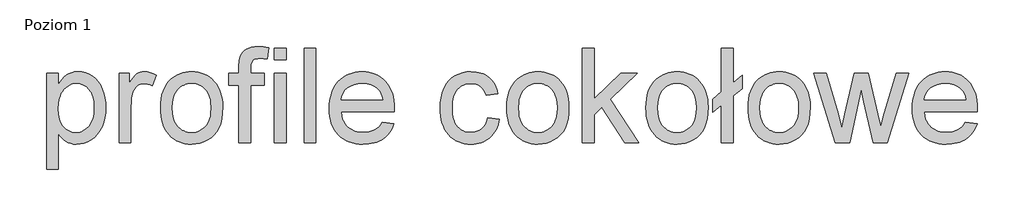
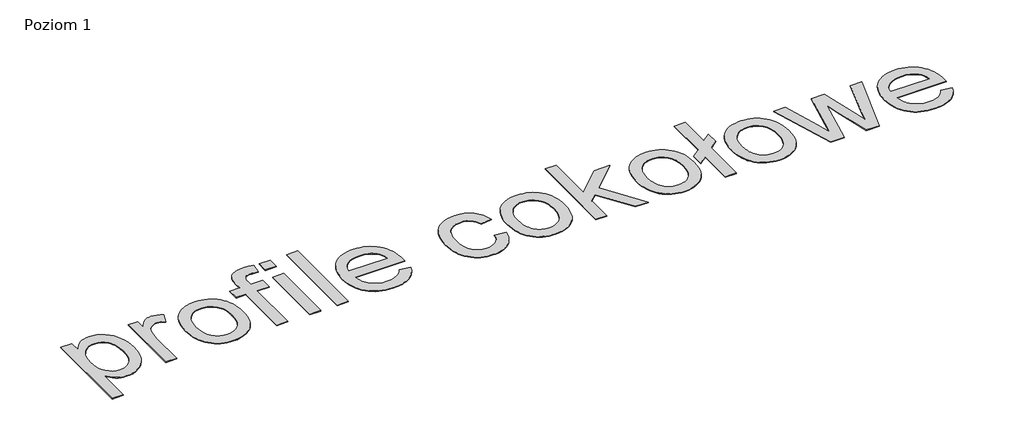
# One storey, part 3 of 4: 1 proxy.
"""IFC4 building model written with IfcOpenShell, lengths in millimetres."""

from ifc_helpers import new_model, si_unit, origin, origin_with_axes, place, context, project, spatial, polyline, outline, extrude, element, save

model = new_model("IFC4")

# Units and contexts
model_context = context("Model", 3, world=origin())
ifc_project = project(units=[si_unit("LENGTHUNIT", "METRE", prefix="MILLI")], contexts=[model_context])

# Site, building, storey
site = spatial("IfcSite", under=ifc_project)
building = spatial("IfcBuilding", under=site)
storey = spatial("IfcBuildingStorey", under=building, Name="Poziom 1", Elevation=0.0)

# Proxy
placement = place(None, origin())
element("IfcBuildingElementProxy", 1, Name="1500 mm Arial", ObjectType="1500 mm Arial", at=placement, inside=storey, context=model_context, shape_type="SweptSolid", body=[
    extrude(outline(polyline([(-110537.381366, 63841.8977144), (-110537.381366, 65372.2868143), (-110349.0257845, 65372.2868143), (-110349.0257845, 65187.6100528), (-110319.2273429, 65236.4118987), (-110287.5894913, 65278.7068318), (-110254.1122297, 65314.4948522), (-110218.7955582, 65343.7759597), (-110180.6278012, 65366.5501545), (-110138.5972832, 65382.8174365), (-110092.7040043, 65392.5778056), (-110042.9479645, 65395.831262), (-109977.2580357, 65391.2787223), (-109915.5688237, 65377.6211033), (-109857.8803283, 65354.8584048), (-109804.1925496, 65322.990627), (-109755.6781115, 65282.8455043), (-109713.5096378, 65235.2507711), (-109677.6871285, 65180.2064276), (-109648.2105837, 65117.7124737), (-109625.1949663, 65049.9072234), (-109608.7552397, 64978.928991), (-109598.8914037, 64904.7777763), (-109595.6034584, 64827.4535795), (-109599.3167672, 64744.7835974), (-109610.4566939, 64666.3672508), (-109629.0232384, 64592.2045399), (-109655.0164006, 64522.2954645), (-109688.0797949, 64458.4679383), (-109727.8570356, 64402.5498751), (-109774.3481228, 64354.5412747), (-109827.5530563, 64314.4421372), (-109884.8621734, 64282.8157819), (-109943.665811, 64260.2255282), (-110003.9639693, 64246.6713759), (-110065.7566482, 64242.1533252), (-110110.212888, 64245.1768553), (-110152.3468728, 64254.2474457), (-110192.1586025, 64269.3650965), (-110229.648077, 64290.5298075), (-110264.355444, 64316.3160361), (-110295.8208509, 64345.2982396), (-110324.0442977, 64377.4764178), (-110349.0257845, 64412.8505709), (-110349.0257845, 63841.8977144), (-110537.381366, 63841.8977144)]), holes=[polyline([(-110349.0257845, 64810.1631257), (-110343.9329181, 64719.3882434), (-110328.654319, 64641.3052899), (-110317.1953697, 64607.0232865), (-110303.1899871, 64575.9142653), (-110286.6381714, 64547.9782263), (-110267.5399225, 64523.2151695), (-110224.6241885, 64482.6561795), (-110177.3628485, 64453.6854724), (-110125.7559023, 64436.3030481), (-110069.8033501, 64430.5089067), (-110013.0460561, 64436.5099817), (-109986.2452779, 64444.0113255), (-109960.4964123, 64454.5132069), (-109912.1544189, 64484.5185821), (-109868.0200758, 64526.5261074), (-109848.3182705, 64552.1801284), (-109831.2433726, 64581.1335911), (-109816.795382, 64613.3864954), (-109804.9742989, 64648.9388413), (-109795.7801231, 64687.7906289), (-109789.2128546, 64729.9418581), (-109783.9590399, 64824.1426415), (-109789.0863952, 64914.1357746), (-109804.4684611, 64992.0807723), (-109816.0050106, 65026.5352204), (-109830.1052377, 65057.9776347), (-109846.7691424, 65086.4080151), (-109865.9967248, 65111.8263618), (-109909.0159256, 65153.6729387), (-109956.0358431, 65183.5633508), (-110007.0564773, 65201.4975981), (-110062.0778282, 65207.4756805), (-110089.9075264, 65205.8863153), (-110116.9267345, 65201.1182198), (-110143.1354525, 65193.1713939), (-110168.5336806, 65182.0458376), (-110216.8986666, 65150.2585339), (-110262.0216926, 65105.7563088), (-110282.4132766, 65078.8865528), (-110300.0859828, 65049.1369705), (-110315.0398111, 65016.507562), (-110327.2747615, 64980.9983272), (-110336.7908341, 64942.6092662), (-110343.5880287, 64901.340379), (-110349.0257845, 64810.1631257)])]), origin_with_axes(), (0.0, 0.0, 1.0), 10.0),
    extrude(outline(polyline([(-109383.7034291, 64265.6977728), (-109383.7034291, 65372.2868143), (-109218.8922953, 65372.2868143), (-109218.8922953, 65208.5793265), (-109187.852252, 65260.9105403), (-109158.0078251, 65303.4928812), (-109129.3590147, 65336.3263493), (-109101.9058208, 65359.4109445), (-109074.4066417, 65375.3448334), (-109045.6198756, 65386.7261826), (-109015.5455225, 65393.5549922), (-108984.1835824, 65395.831262), (-108937.462569, 65392.1984273), (-108890.3736736, 65381.2999232), (-108842.9168962, 65363.1357497), (-108795.0922369, 65337.7059068), (-108858.000058, 65168.848071), (-108891.1094376, 65185.7476502), (-108924.2188172, 65197.8187781), (-108957.3281967, 65205.0614549), (-108990.4375763, 65207.4756805), (-109019.3048166, 65205.1534254), (-109046.6775363, 65198.1866601), (-109072.5557354, 65186.5753846), (-109096.9394139, 65170.319599), (-109118.9088668, 65149.9481335), (-109137.5443891, 65125.9898186), (-109152.8459808, 65098.4446542), (-109164.813642, 65067.3126403), (-109178.172357, 65015.9011315), (-109187.7142962, 64962.0983897), (-109193.4394598, 64905.904415), (-109195.3478476, 64847.3192072), (-109195.3478476, 64265.6977728), (-109383.7034291, 64265.6977728)])), origin_with_axes(), (0.0, 0.0, 1.0), 10.0),
    extrude(outline(polyline([(-108724.4588938, 64818.9922936), (-108721.9124606, 64893.1262638), (-108714.273161, 64962.3053233), (-108701.5409951, 65026.5294723), (-108683.7159628, 65085.7987106), (-108660.7980641, 65140.1130383), (-108632.7872991, 65189.4724554), (-108599.6836677, 65233.8769618), (-108561.4871699, 65273.3265576), (-108526.5268841, 65302.0385977), (-108489.7041956, 65326.9223658), (-108451.0191046, 65347.9778619), (-108410.4716109, 65365.2050859), (-108368.0617146, 65378.604038), (-108323.7894158, 65388.174718), (-108277.6547143, 65393.917126), (-108229.6576103, 65395.831262), (-108176.4555508, 65393.5003847), (-108125.7424429, 65386.5077527), (-108077.5182867, 65374.8533661), (-108031.7830821, 65358.5372248), (-107988.5368291, 65337.5593288), (-107947.7795278, 65311.9196782), (-107909.511178, 65281.6182729), (-107873.7317799, 65246.655113), (-107841.3552903, 65207.5820214), (-107813.2956659, 65164.9508211), (-107789.5529068, 65118.7615122), (-107770.127013, 65069.0140946), (-107755.0179845, 65015.7085683), (-107744.2258213, 64958.8449333), (-107737.7505234, 64898.4231897), (-107735.5920907, 64834.4433374), (-107739.4088664, 64733.6206781), (-107750.8591935, 64644.1563754), (-107769.943072, 64566.0504293), (-107796.6605019, 64499.3028398), (-107830.6780902, 64441.6488334), (-107871.6624437, 64390.8236365), (-107919.6135625, 64346.8272491), (-107974.5314466, 64309.6596713), (-108034.2777819, 64280.1256448), (-108096.7142543, 64259.0299117), (-108161.8408637, 64246.3724718), (-108229.6576103, 64242.1533252), (-108283.6989005, 64244.4755802), (-108335.0902908, 64251.4423455), (-108383.8317811, 64263.053621), (-108429.9233714, 64279.3094067), (-108473.3650617, 64300.2097025), (-108514.156852, 64325.7545086), (-108552.2987423, 64355.9438248), (-108587.7907326, 64390.7776512), (-108619.8223329, 64429.9800763), (-108647.5830531, 64473.2751886), (-108671.0728933, 64520.6629881), (-108690.2918535, 64572.1434748), (-108705.2399336, 64627.7166487), (-108715.9171337, 64687.3825098), (-108722.3234538, 64751.1410581), (-108724.4588938, 64818.9922936)]), holes=[polyline([(-108536.1033122, 64819.3601756), (-108530.6540602, 64727.9989813), (-108523.8424951, 64686.9140351), (-108514.306304, 64648.8928561), (-108502.0454869, 64613.9354443), (-108487.0600438, 64582.0417998), (-108469.3499746, 64553.2119225), (-108448.9152794, 64527.4458124), (-108426.4169961, 64504.7262251), (-108402.5161627, 64485.0359162), (-108377.2127793, 64468.3748855), (-108350.5068457, 64454.7431331), (-108322.398362, 64444.1406591), (-108292.8873282, 64436.5674633), (-108229.6576103, 64430.5089067), (-108166.7497891, 64436.6019522), (-108137.3652147, 64444.2182592), (-108109.3601978, 64454.8810889), (-108082.7347384, 64468.5904413), (-108057.4888365, 64485.3463166), (-108033.6224921, 64505.1487146), (-108011.1357051, 64527.9976354), (-107990.7010099, 64553.967805), (-107972.9909408, 64583.1339494), (-107958.0054976, 64615.4960687), (-107945.7446805, 64651.0541628), (-107936.2084894, 64689.8082317), (-107929.3969243, 64731.7582755), (-107923.9476723, 64825.2462875), (-107929.4314133, 64913.710411), (-107936.2860895, 64953.6572224), (-107945.8826362, 64990.7472001), (-107958.2210535, 65024.9803442), (-107973.3013412, 65056.3566547), (-107991.1234994, 65084.8761315), (-108011.6875281, 65110.5387748), (-108058.2131042, 65152.948671), (-108083.4676284, 65169.6097017), (-108110.0499766, 65183.2414541), (-108137.9601489, 65193.8439281), (-108167.1981453, 65201.4171239), (-108229.6576103, 65207.4756805), (-108292.8873282, 65201.4401165), (-108322.398362, 65193.8956615), (-108350.5068457, 65183.3334246), (-108377.2127793, 65169.7534056), (-108402.5161627, 65153.1556046), (-108426.4169961, 65133.5400217), (-108448.9152794, 65110.9066568), (-108469.3499746, 65085.2267691), (-108487.0600438, 65056.4716178), (-108502.0454869, 65024.641203), (-108514.306304, 64989.7355246), (-108523.8424951, 64951.7545827), (-108530.6540602, 64910.6983772), (-108536.1033122, 64819.3601756)])]), origin_with_axes(), (0.0, 0.0, 1.0), 10.0),
    extrude(outline(polyline([(-107476.6031661, 64265.6977728), (-107476.6031661, 65183.9312328), (-107641.4143, 65183.9312328), (-107641.4143, 65372.2868143), (-107476.6031661, 65372.2868143), (-107476.6031661, 65483.7550589), (-107471.6367592, 65576.0014692), (-107465.4287505, 65611.8469711), (-107456.7375384, 65640.8406708), (-107440.3667896, 65673.789102), (-107418.8456929, 65703.4725805), (-107392.1742482, 65729.8911063), (-107360.3524557, 65753.0446793), (-107322.6905364, 65771.875639), (-107278.4987117, 65785.3263244), (-107227.7769817, 65793.3967357), (-107170.5253462, 65796.0868728), (-107088.7635727, 65790.9365248), (-106998.7244544, 65775.4854811), (-107026.315604, 65598.9021234), (-107082.1416968, 65605.5239993), (-107134.8407926, 65607.7312913), (-107173.7098247, 65605.7769182), (-107206.4398259, 65599.9137989), (-107233.0307964, 65590.1419334), (-107253.4827361, 65576.4613217), (-107268.6923573, 65557.446421), (-107279.5563725, 65531.6716887), (-107286.0747816, 65499.1371248), (-107288.2475846, 65459.8427292), (-107288.2475846, 65372.2868143), (-107076.3475554, 65372.2868143), (-107076.3475554, 65183.9312328), (-107288.2475846, 65183.9312328), (-107288.2475846, 64265.6977728), (-107476.6031661, 64265.6977728)])), origin_with_axes(), (0.0, 0.0, 1.0), 10.0),
    extrude(outline(polyline([(-106911.5364215, 65584.1868436), (-106911.5364215, 65772.5424251), (-106723.18084, 65772.5424251), (-106723.18084, 65584.1868436), (-106911.5364215, 65584.1868436)])), origin_with_axes(), (0.0, 0.0, 1.0), 10.0),
    extrude(outline(polyline([(-106911.5364215, 64265.6977728), (-106911.5364215, 65372.2868143), (-106723.18084, 65372.2868143), (-106723.18084, 64265.6977728), (-106911.5364215, 64265.6977728)])), origin_with_axes(), (0.0, 0.0, 1.0), 10.0),
    extrude(outline(polyline([(-106440.6474677, 64265.6977728), (-106440.6474677, 65772.5424251), (-106252.2918862, 65772.5424251), (-106252.2918862, 64265.6977728), (-106440.6474677, 64265.6977728)])), origin_with_axes(), (0.0, 0.0, 1.0), 10.0),
    extrude(outline(polyline([(-105194.9990321, 64595.3200405), (-105010.3222705, 64571.7755928), (-105038.6376878, 64497.8083192), (-105056.5115794, 64464.1183758), (-105076.8629264, 64432.6242282), (-105099.6917286, 64403.3258761), (-105124.9979862, 64376.2233198), (-105152.781699, 64351.3165591), (-105183.0428672, 64328.605594), (-105215.6320386, 64308.3433435), (-105250.3997613, 64290.7827264), (-105287.3460351, 64275.9237427), (-105326.4708601, 64263.7663924), (-105411.2561637, 64247.556592), (-105504.755672, 64242.1533252), (-105564.7836669, 64244.4842025), (-105621.6271833, 64251.4768345), (-105675.2862212, 64263.1312211), (-105725.7607806, 64279.4473624), (-105773.0508614, 64300.4252584), (-105817.1564638, 64326.064909), (-105858.0775876, 64356.3663143), (-105895.8142329, 64391.3294742), (-105929.6996135, 64430.5002845), (-105959.0669434, 64473.4246407), (-105983.9162226, 64520.1025429), (-106004.2474509, 64570.5339911), (-106020.0606286, 64624.7189853), (-106031.3557555, 64682.6575254), (-106038.1328316, 64744.3496116), (-106040.391857, 64809.7952437), (-106038.109839, 64877.4682864), (-106031.263785, 64941.2440791), (-106019.853695, 65001.122622), (-106003.8795689, 65057.103915), (-105983.3414069, 65109.1879581), (-105958.2392089, 65157.3747513), (-105928.5729749, 65201.6642946), (-105894.3427049, 65242.056588), (-105856.473852, 65278.0975273), (-105815.8918694, 65309.3330079), (-105772.5967571, 65335.76303), (-105726.5885151, 65357.3875935), (-105677.8671433, 65374.2066985), (-105626.4326419, 65386.2203449), (-105572.2850107, 65393.4285327), (-105515.4242499, 65395.831262), (-105460.4230175, 65393.4342809), (-105407.9912109, 65386.2433375), (-105358.1288302, 65374.2584319), (-105310.8358753, 65357.479564), (-105266.1123462, 65335.9067339), (-105223.9582429, 65309.5399415), (-105184.3735654, 65278.3791869), (-105147.3583137, 65242.42447), (-105113.8609336, 65202.1241471), (-105084.8298708, 65157.9265743), (-105060.2651254, 65109.8317516), (-105040.1666973, 65057.839679), (-105024.5345866, 65001.9503565), (-105013.3687932, 64942.1637841), (-105006.6693172, 64878.4799618), (-105004.4361586, 64810.8988897), (-105005.5398045, 64760.1311744), (-105852.0362754, 64760.1311744), (-105841.126275, 64684.9682842), (-105831.6274469, 64650.8874663), (-105819.4327336, 64619.1403997), (-105804.542135, 64589.7270846), (-105786.9556512, 64562.6475208), (-105766.6732822, 64537.9017085), (-105743.6950279, 64515.4896476), (-105692.0420965, 64478.3105734), (-105634.38809, 64451.7540919), (-105570.7330086, 64435.820203), (-105501.076852, 64430.5089067), (-105448.9755645, 64432.9691175), (-105400.8290084, 64440.3497501), (-105356.6371837, 64452.6508043), (-105316.4000905, 64469.8722802), (-105280.1177287, 64492.4740302), (-105247.7900984, 64520.915907), (-105219.4171995, 64555.1979104), (-105194.9990321, 64595.3200405)]), holes=[polyline([(-105852.0362754, 64948.4867559), (-105192.7917401, 64948.4867559), (-105202.4716351, 65001.7836599), (-105218.2675682, 65047.9988356), (-105240.1795396, 65087.1322828), (-105268.2075491, 65119.1840017), (-105293.0050948, 65139.8773639), (-105319.5730727, 65157.8116112), (-105347.9114826, 65172.9867435), (-105378.0203247, 65185.4027608), (-105443.549305, 65201.9574506), (-105516.1600138, 65207.4756805), (-105582.3902693, 65203.0725929), (-105643.1252874, 65189.86333), (-105698.3650683, 65167.8478918), (-105748.1096118, 65137.0262784), (-105789.8527219, 65098.8240325), (-105821.0882026, 65054.6666968), (-105841.8160538, 65004.5542712), (-105852.0362754, 64948.4867559)])]), origin_with_axes(), (0.0, 0.0, 1.0), 10.0),
    extrude(outline(polyline([(-103521.135954, 64665.9533836), (-103332.7803725, 64642.4089359), (-103341.5807996, 64596.6909758), (-103353.2668011, 64553.5309451), (-103367.838377, 64512.928844), (-103385.2955273, 64474.8846724), (-103405.638252, 64439.3984302), (-103428.8665511, 64406.4701176), (-103454.9804246, 64376.0997344), (-103483.9798725, 64348.2872808), (-103515.284331, 64323.4121349), (-103548.3132364, 64301.8536752), (-103583.0665886, 64283.6119016), (-103619.5443877, 64268.6868141), (-103657.7466336, 64257.0784127), (-103697.6733264, 64248.7866974), (-103739.3244661, 64243.8116682), (-103782.7000526, 64242.1533252), (-103836.8850467, 64244.466958), (-103888.3396667, 64251.4078566), (-103937.0639126, 64262.9760209), (-103983.0577842, 64279.1714509), (-104026.3212816, 64299.9941467), (-104066.8544049, 64325.4441081), (-104104.657154, 64355.5213353), (-104139.7295289, 64390.2258282), (-104171.3300175, 64429.2529346), (-104198.7171076, 64472.2980021), (-104221.8907992, 64519.3610308), (-104240.8510923, 64570.4420206), (-104255.597987, 64625.5409716), (-104266.1314832, 64684.6578838), (-104272.4515809, 64747.7927571), (-104274.5582801, 64814.9455916), (-104270.9599344, 64901.5473126), (-104260.1648971, 64982.5618257), (-104242.1731682, 65057.989131), (-104216.9847479, 65127.8292285), (-104184.4271913, 65190.6795682), (-104144.3280538, 65245.1375998), (-104096.6873355, 65291.2033233), (-104041.5050362, 65328.8767389), (-103981.2758558, 65358.1693428), (-103918.494494, 65379.0926312), (-103853.160951, 65391.6466043), (-103785.2752265, 65395.831262), (-103701.7085321, 65390.0831059), (-103662.9171001, 65382.8979106), (-103626.1202784, 65372.8386373), (-103591.3180668, 65359.9052859), (-103558.5104654, 65344.0978565), (-103527.6974743, 65325.4163489), (-103498.8790933, 65303.8607632), (-103472.3082414, 65279.6610257), (-103448.2378374, 65253.0470627), (-103426.6678813, 65224.018874), (-103407.5983732, 65192.5764597), (-103391.0293131, 65158.7198198), (-103376.9607008, 65122.4489544), (-103356.3248202, 65042.6645467), (-103544.6804017, 65019.120099), (-103559.3841852, 65063.1164863), (-103578.847442, 65101.2957396), (-103603.0701721, 65133.6578589), (-103632.0523755, 65160.2028441), (-103665.0582883, 65180.88471), (-103701.3521464, 65195.6574714), (-103740.9339498, 65204.5211282), (-103783.8036986, 65207.4756805), (-103847.8036694, 65201.6585465), (-103877.4497849, 65194.3871289), (-103905.5266537, 65184.2071443), (-103932.0342759, 65171.1185927), (-103956.9726515, 65155.1214741), (-103980.3417804, 65136.2157884), (-104002.1416627, 65114.4015357), (-104021.843468, 65089.4430416), (-104038.9183659, 65061.1046317), (-104053.3663564, 65029.3863059), (-104065.1874396, 64994.2880643), (-104074.3816154, 64955.8099069), (-104080.9488838, 64913.9518336), (-104086.2026986, 64820.0959396), (-104081.063847, 64724.8259991), (-104074.6402824, 64682.4419696), (-104065.6472921, 64643.5585671), (-104054.084876, 64608.1757918), (-104039.953034, 64576.2936436), (-104023.2517662, 64547.9121225), (-104003.9810727, 64523.0312285), (-103982.6352947, 64501.3463093), (-103959.7087738, 64482.5527127), (-103935.20151, 64466.6504386), (-103909.1135032, 64453.6394871), (-103881.4447534, 64443.5198582), (-103852.1952607, 64436.2915518), (-103788.9540465, 64430.5089067), (-103737.9908938, 64434.1187488), (-103691.4193325, 64444.948275), (-103649.2393625, 64462.9974854), (-103611.4509838, 64488.2663799), (-103579.1118572, 64521.0308701), (-103553.2796433, 64561.5668675), (-103533.9543423, 64609.874372), (-103521.135954, 64665.9533836)])), origin_with_axes(), (0.0, 0.0, 1.0), 10.0),
    extrude(outline(polyline([(-103215.058134, 64818.9922936), (-103212.5117008, 64893.1262638), (-103204.8724013, 64962.3053233), (-103192.1402353, 65026.5294723), (-103174.315203, 65085.7987106), (-103151.3973044, 65140.1130383), (-103123.3865393, 65189.4724554), (-103090.2829079, 65233.8769618), (-103052.0864101, 65273.3265576), (-103017.1261243, 65302.0385977), (-102980.3034358, 65326.9223658), (-102941.6183448, 65347.9778619), (-102901.0708511, 65365.2050859), (-102858.6609549, 65378.604038), (-102814.388656, 65388.174718), (-102768.2539546, 65393.917126), (-102720.2568505, 65395.831262), (-102667.054791, 65393.5003847), (-102616.3416832, 65386.5077527), (-102568.1175269, 65374.8533661), (-102522.3823223, 65358.5372248), (-102479.1360694, 65337.5593288), (-102438.378768, 65311.9196782), (-102400.1104183, 65281.6182729), (-102364.3310202, 65246.655113), (-102331.9545305, 65207.5820214), (-102303.8949061, 65164.9508211), (-102280.1521471, 65118.7615122), (-102260.7262533, 65069.0140946), (-102245.6172248, 65015.7085683), (-102234.8250616, 64958.8449333), (-102228.3497636, 64898.4231897), (-102226.191331, 64834.4433374), (-102230.0081067, 64733.6206781), (-102241.4584338, 64644.1563754), (-102260.5423123, 64566.0504293), (-102287.2597422, 64499.3028398), (-102321.2773304, 64441.6488334), (-102362.2616839, 64390.8236365), (-102410.2128028, 64346.8272491), (-102465.1306868, 64309.6596713), (-102524.8770221, 64280.1256448), (-102587.3134945, 64259.0299117), (-102652.440104, 64246.3724718), (-102720.2568505, 64242.1533252), (-102774.2981408, 64244.4755802), (-102825.6895311, 64251.4423455), (-102874.4310213, 64263.053621), (-102920.5226116, 64279.3094067), (-102963.9643019, 64300.2097025), (-103004.7560922, 64325.7545086), (-103042.8979825, 64355.9438248), (-103078.3899728, 64390.7776512), (-103110.4215731, 64429.9800763), (-103138.1822933, 64473.2751886), (-103161.6721335, 64520.6629881), (-103180.8910937, 64572.1434748), (-103195.8391738, 64627.7166487), (-103206.5163739, 64687.3825098), (-103212.922694, 64751.1410581), (-103215.058134, 64818.9922936)]), holes=[polyline([(-103026.7025525, 64819.3601756), (-103021.2533004, 64727.9989813), (-103014.4417354, 64686.9140351), (-103004.9055443, 64648.8928561), (-102992.6447271, 64613.9354443), (-102977.659284, 64582.0417998), (-102959.9492148, 64553.2119225), (-102939.5145196, 64527.4458124), (-102917.0162364, 64504.7262251), (-102893.115403, 64485.0359162), (-102867.8120195, 64468.3748855), (-102841.1060859, 64454.7431331), (-102812.9976022, 64444.1406591), (-102783.4865684, 64436.5674633), (-102720.2568505, 64430.5089067), (-102657.3490293, 64436.6019522), (-102627.964455, 64444.2182592), (-102599.9594381, 64454.8810889), (-102573.3339787, 64468.5904413), (-102548.0880768, 64485.3463166), (-102524.2217323, 64505.1487146), (-102501.7349454, 64527.9976354), (-102481.3002502, 64553.967805), (-102463.590181, 64583.1339494), (-102448.6047378, 64615.4960687), (-102436.3439207, 64651.0541628), (-102426.8077296, 64689.8082317), (-102419.9961646, 64731.7582755), (-102414.5469125, 64825.2462875), (-102420.0306535, 64913.710411), (-102426.8853297, 64953.6572224), (-102436.4818765, 64990.7472001), (-102448.8202937, 65024.9803442), (-102463.9005814, 65056.3566547), (-102481.7227396, 65084.8761315), (-102502.2867684, 65110.5387748), (-102548.8123444, 65152.948671), (-102574.0668686, 65169.6097017), (-102600.6492168, 65183.2414541), (-102628.5593891, 65193.8439281), (-102657.7973855, 65201.4171239), (-102720.2568505, 65207.4756805), (-102783.4865684, 65201.4401165), (-102812.9976022, 65193.8956615), (-102841.1060859, 65183.3334246), (-102867.8120195, 65169.7534056), (-102893.115403, 65153.1556046), (-102917.0162364, 65133.5400217), (-102939.5145196, 65110.9066568), (-102959.9492148, 65085.2267691), (-102977.659284, 65056.4716178), (-102992.6447271, 65024.641203), (-103004.9055443, 64989.7355246), (-103014.4417354, 64951.7545827), (-103021.2533004, 64910.6983772), (-103026.7025525, 64819.3601756)])]), origin_with_axes(), (0.0, 0.0, 1.0), 10.0),
    extrude(outline(polyline([(-102014.2913018, 64265.6977728), (-102014.2913018, 65772.5424251), (-101825.9357202, 65772.5424251), (-101825.9357202, 64962.8341537), (-101403.6071898, 65372.2868143), (-101143.1467372, 65372.2868143), (-101570.9934976, 64957.6838058), (-101119.6022895, 64265.6977728), (-101339.5957226, 64265.6977728), (-101706.0061898, 64826.7178155), (-101825.9357202, 64710.099223), (-101825.9357202, 64265.6977728), (-102014.2913018, 64265.6977728)])), origin_with_axes(), (0.0, 0.0, 1.0), 10.0),
    extrude(outline(polyline([(-101001.880051, 64818.9922936), (-100999.3336178, 64893.1262638), (-100991.6943183, 64962.3053233), (-100978.9621524, 65026.5294723), (-100961.1371201, 65085.7987106), (-100938.2192214, 65140.1130383), (-100910.2084564, 65189.4724554), (-100877.1048249, 65233.8769618), (-100838.9083272, 65273.3265576), (-100803.9480413, 65302.0385977), (-100767.1253529, 65326.9223658), (-100728.4402618, 65347.9778619), (-100687.8927681, 65365.2050859), (-100645.4828719, 65378.604038), (-100601.210573, 65388.174718), (-100555.0758716, 65393.917126), (-100507.0787675, 65395.831262), (-100453.876708, 65393.5003847), (-100403.1636002, 65386.5077527), (-100354.939444, 65374.8533661), (-100309.2042394, 65358.5372248), (-100265.9579864, 65337.5593288), (-100225.200685, 65311.9196782), (-100186.9323353, 65281.6182729), (-100151.1529372, 65246.655113), (-100118.7764475, 65207.5820214), (-100090.7168232, 65164.9508211), (-100066.9740641, 65118.7615122), (-100047.5481703, 65069.0140946), (-100032.4391418, 65015.7085683), (-100021.6469786, 64958.8449333), (-100015.1716806, 64898.4231897), (-100013.013248, 64834.4433374), (-100016.8300237, 64733.6206781), (-100028.2803508, 64644.1563754), (-100047.3642293, 64566.0504293), (-100074.0816592, 64499.3028398), (-100108.0992474, 64441.6488334), (-100149.083601, 64390.8236365), (-100197.0347198, 64346.8272491), (-100251.9526039, 64309.6596713), (-100311.6989391, 64280.1256448), (-100374.1354115, 64259.0299117), (-100439.262021, 64246.3724718), (-100507.0787675, 64242.1533252), (-100561.1200578, 64244.4755802), (-100612.5114481, 64251.4423455), (-100661.2529384, 64263.053621), (-100707.3445286, 64279.3094067), (-100750.7862189, 64300.2097025), (-100791.5780092, 64325.7545086), (-100829.7198995, 64355.9438248), (-100865.2118898, 64390.7776512), (-100897.2434901, 64429.9800763), (-100925.0042103, 64473.2751886), (-100948.4940506, 64520.6629881), (-100967.7130107, 64572.1434748), (-100982.6610909, 64627.7166487), (-100993.338291, 64687.3825098), (-100999.744611, 64751.1410581), (-101001.880051, 64818.9922936)]), holes=[polyline([(-100813.5244695, 64819.3601756), (-100808.0752174, 64727.9989813), (-100801.2636524, 64686.9140351), (-100791.7274613, 64648.8928561), (-100779.4666442, 64613.9354443), (-100764.481201, 64582.0417998), (-100746.7711318, 64553.2119225), (-100726.3364366, 64527.4458124), (-100703.8381534, 64504.7262251), (-100679.93732, 64485.0359162), (-100654.6339365, 64468.3748855), (-100627.9280029, 64454.7431331), (-100599.8195192, 64444.1406591), (-100570.3084854, 64436.5674633), (-100507.0787675, 64430.5089067), (-100444.1709463, 64436.6019522), (-100414.786372, 64444.2182592), (-100386.7813551, 64454.8810889), (-100360.1558957, 64468.5904413), (-100334.9099938, 64485.3463166), (-100311.0436493, 64505.1487146), (-100288.5568624, 64527.9976354), (-100268.1221672, 64553.967805), (-100250.412098, 64583.1339494), (-100235.4266549, 64615.4960687), (-100223.1658377, 64651.0541628), (-100213.6296466, 64689.8082317), (-100206.8180816, 64731.7582755), (-100201.3688295, 64825.2462875), (-100206.8525705, 64913.710411), (-100213.7072468, 64953.6572224), (-100223.3037935, 64990.7472001), (-100235.6422107, 65024.9803442), (-100250.7224984, 65056.3566547), (-100268.5446567, 65084.8761315), (-100289.1086854, 65110.5387748), (-100335.6342615, 65152.948671), (-100360.8887856, 65169.6097017), (-100387.4711338, 65183.2414541), (-100415.3813061, 65193.8439281), (-100444.6193025, 65201.4171239), (-100507.0787675, 65207.4756805), (-100570.3084854, 65201.4401165), (-100599.8195192, 65193.8956615), (-100627.9280029, 65183.3334246), (-100654.6339365, 65169.7534056), (-100679.93732, 65153.1556046), (-100703.8381534, 65133.5400217), (-100726.3364366, 65110.9066568), (-100746.7711318, 65085.2267691), (-100764.481201, 65056.4716178), (-100779.4666442, 65024.641203), (-100791.7274613, 64989.7355246), (-100801.2636524, 64951.7545827), (-100808.0752174, 64910.6983772), (-100813.5244695, 64819.3601756)])]), origin_with_axes(), (0.0, 0.0, 1.0), 10.0),
    extrude(outline(polyline([(-99801.1132188, 64861.298723), (-99942.3799049, 64748.3589505), (-99942.3799049, 64960.2589797), (-99801.1132188, 65073.1987523), (-99801.1132188, 65772.5424251), (-99612.7576372, 65772.5424251), (-99612.7576372, 65224.0303703), (-99471.4909511, 65336.9701428), (-99471.4909511, 65125.0701136), (-99612.7576372, 65012.1303411), (-99612.7576372, 64265.6977728), (-99801.1132188, 64265.6977728), (-99801.1132188, 64861.298723)])), origin_with_axes(), (0.0, 0.0, 1.0), 10.0),
    extrude(outline(polyline([(-99377.3131603, 64818.9922936), (-99374.7667271, 64893.1262638), (-99367.1274276, 64962.3053233), (-99354.3952617, 65026.5294723), (-99336.5702294, 65085.7987106), (-99313.6523307, 65140.1130383), (-99285.6415657, 65189.4724554), (-99252.5379342, 65233.8769618), (-99214.3414365, 65273.3265576), (-99179.3811506, 65302.0385977), (-99142.5584622, 65326.9223658), (-99103.8733711, 65347.9778619), (-99063.3258774, 65365.2050859), (-99020.9159812, 65378.604038), (-98976.6436823, 65388.174718), (-98930.5089809, 65393.917126), (-98882.5118768, 65395.831262), (-98829.3098173, 65393.5003847), (-98778.5967095, 65386.5077527), (-98730.3725533, 65374.8533661), (-98684.6373487, 65358.5372248), (-98641.3910957, 65337.5593288), (-98600.6337943, 65311.9196782), (-98562.3654446, 65281.6182729), (-98526.5860465, 65246.655113), (-98494.2095568, 65207.5820214), (-98466.1499325, 65164.9508211), (-98442.4071734, 65118.7615122), (-98422.9812796, 65069.0140946), (-98407.8722511, 65015.7085683), (-98397.0800879, 64958.8449333), (-98390.6047899, 64898.4231897), (-98388.4463573, 64834.4433374), (-98392.263133, 64733.6206781), (-98403.7134601, 64644.1563754), (-98422.7973386, 64566.0504293), (-98449.5147685, 64499.3028398), (-98483.5323567, 64441.6488334), (-98524.5167103, 64390.8236365), (-98572.4678291, 64346.8272491), (-98627.3857132, 64309.6596713), (-98687.1320484, 64280.1256448), (-98749.5685208, 64259.0299117), (-98814.6951303, 64246.3724718), (-98882.5118768, 64242.1533252), (-98936.5531671, 64244.4755802), (-98987.9445574, 64251.4423455), (-99036.6860477, 64263.053621), (-99082.7776379, 64279.3094067), (-99126.2193282, 64300.2097025), (-99167.0111185, 64325.7545086), (-99205.1530088, 64355.9438248), (-99240.6449991, 64390.7776512), (-99272.6765994, 64429.9800763), (-99300.4373196, 64473.2751886), (-99323.9271599, 64520.6629881), (-99343.14612, 64572.1434748), (-99358.0942002, 64627.7166487), (-99368.7714003, 64687.3825098), (-99375.1777203, 64751.1410581), (-99377.3131603, 64818.9922936)]), holes=[polyline([(-99188.9575788, 64819.3601756), (-99183.5083267, 64727.9989813), (-99176.6967617, 64686.9140351), (-99167.1605706, 64648.8928561), (-99154.8997535, 64613.9354443), (-99139.9143103, 64582.0417998), (-99122.2042411, 64553.2119225), (-99101.7695459, 64527.4458124), (-99079.2712627, 64504.7262251), (-99055.3704293, 64485.0359162), (-99030.0670458, 64468.3748855), (-99003.3611122, 64454.7431331), (-98975.2526285, 64444.1406591), (-98945.7415947, 64436.5674633), (-98882.5118768, 64430.5089067), (-98819.6040556, 64436.6019522), (-98790.2194813, 64444.2182592), (-98762.2144644, 64454.8810889), (-98735.589005, 64468.5904413), (-98710.3431031, 64485.3463166), (-98686.4767586, 64505.1487146), (-98663.9899717, 64527.9976354), (-98643.5552765, 64553.967805), (-98625.8452073, 64583.1339494), (-98610.8597642, 64615.4960687), (-98598.598947, 64651.0541628), (-98589.0627559, 64689.8082317), (-98582.2511909, 64731.7582755), (-98576.8019388, 64825.2462875), (-98582.2856798, 64913.710411), (-98589.1403561, 64953.6572224), (-98598.7369028, 64990.7472001), (-98611.07532, 65024.9803442), (-98626.1556077, 65056.3566547), (-98643.977766, 65084.8761315), (-98664.5417947, 65110.5387748), (-98711.0673707, 65152.948671), (-98736.3218949, 65169.6097017), (-98762.9042431, 65183.2414541), (-98790.8144154, 65193.8439281), (-98820.0524118, 65201.4171239), (-98882.5118768, 65207.4756805), (-98945.7415947, 65201.4401165), (-98975.2526285, 65193.8956615), (-99003.3611122, 65183.3334246), (-99030.0670458, 65169.7534056), (-99055.3704293, 65153.1556046), (-99079.2712627, 65133.5400217), (-99101.7695459, 65110.9066568), (-99122.2042411, 65085.2267691), (-99139.9143103, 65056.4716178), (-99154.8997535, 65024.641203), (-99167.1605706, 64989.7355246), (-99176.6967617, 64951.7545827), (-99183.5083267, 64910.6983772), (-99188.9575788, 64819.3601756)])]), origin_with_axes(), (0.0, 0.0, 1.0), 10.0),
    extrude(outline(polyline([(-97991.5016845, 64265.6977728), (-98329.5852381, 65372.2868143), (-98134.2398986, 65372.2868143), (-97942.9412611, 64726.6539128), (-97885.9195519, 64495.9919018), (-97839.1985385, 64718.1926269), (-97687.2632745, 65372.2868143), (-97463.5910214, 65372.2868143), (-97311.6557574, 64720.0320369), (-97270.085092, 64518.8005855), (-97210.4882087, 64731.0684967), (-97019.1895712, 65372.2868143), (-96822.7405858, 65372.2868143), (-97161.9277854, 64265.6977728), (-97389.2788584, 64265.6977728), (-97534.2243645, 64914.6416123), (-97576.1629119, 65116.9767097), (-97762.6790835, 64265.6977728), (-97991.5016845, 64265.6977728)])), origin_with_axes(), (0.0, 0.0, 1.0), 10.0),
    extrude(outline(polyline([(-95918.4866417, 64595.3200405), (-95733.8098801, 64571.7755928), (-95762.1252974, 64497.8083192), (-95779.999189, 64464.1183758), (-95800.350536, 64432.6242282), (-95823.1793382, 64403.3258761), (-95848.4855958, 64376.2233198), (-95876.2693087, 64351.3165591), (-95906.5304768, 64328.605594), (-95939.1196483, 64308.3433435), (-95973.8873709, 64290.7827264), (-96010.8336447, 64275.9237427), (-96049.9584697, 64263.7663924), (-96134.7437733, 64247.556592), (-96228.2432816, 64242.1533252), (-96288.2712765, 64244.4842025), (-96345.114793, 64251.4768345), (-96398.7738308, 64263.1312211), (-96449.2483902, 64279.4473624), (-96496.5384711, 64300.4252584), (-96540.6440734, 64326.064909), (-96581.5651972, 64356.3663143), (-96619.3018425, 64391.3294742), (-96653.1872231, 64430.5002845), (-96682.554553, 64473.4246407), (-96707.4038322, 64520.1025429), (-96727.7350606, 64570.5339911), (-96743.5482382, 64624.7189853), (-96754.8433651, 64682.6575254), (-96761.6204412, 64744.3496116), (-96763.8794666, 64809.7952437), (-96761.5974486, 64877.4682864), (-96754.7513946, 64941.2440791), (-96743.3413046, 65001.122622), (-96727.3671786, 65057.103915), (-96706.8290166, 65109.1879581), (-96681.7268185, 65157.3747513), (-96652.0605845, 65201.6642946), (-96617.8303145, 65242.056588), (-96579.9614616, 65278.0975273), (-96539.379479, 65309.3330079), (-96496.0843667, 65335.76303), (-96450.0761247, 65357.3875935), (-96401.354753, 65374.2066985), (-96349.9202515, 65386.2203449), (-96295.7726204, 65393.4285327), (-96238.9118595, 65395.831262), (-96183.9106271, 65393.4342809), (-96131.4788206, 65386.2433375), (-96081.6164398, 65374.2584319), (-96034.3234849, 65357.479564), (-95989.5999558, 65335.9067339), (-95947.4458525, 65309.5399415), (-95907.861175, 65278.3791869), (-95870.8459233, 65242.42447), (-95837.3485432, 65202.1241471), (-95808.3174804, 65157.9265743), (-95783.752735, 65109.8317516), (-95763.654307, 65057.839679), (-95748.0221962, 65001.9503565), (-95736.8564029, 64942.1637841), (-95730.1569268, 64878.4799618), (-95727.9237682, 64810.8988897), (-95729.0274142, 64760.1311744), (-96575.5238851, 64760.1311744), (-96564.6138846, 64684.9682842), (-96555.1150566, 64650.8874663), (-96542.9203432, 64619.1403997), (-96528.0297447, 64589.7270846), (-96510.4432609, 64562.6475208), (-96490.1608918, 64537.9017085), (-96467.1826375, 64515.4896476), (-96415.5297061, 64478.3105734), (-96357.8756997, 64451.7540919), (-96294.2206182, 64435.820203), (-96224.5644617, 64430.5089067), (-96172.4631741, 64432.9691175), (-96124.316618, 64440.3497501), (-96080.1247933, 64452.6508043), (-96039.8877001, 64469.8722802), (-96003.6053383, 64492.4740302), (-95971.277708, 64520.915907), (-95942.9048091, 64555.1979104), (-95918.4866417, 64595.3200405)]), holes=[polyline([(-96575.5238851, 64948.4867559), (-95916.2793497, 64948.4867559), (-95925.9592447, 65001.7836599), (-95941.7551779, 65047.9988356), (-95963.6671492, 65087.1322828), (-95991.6951587, 65119.1840017), (-96016.4927045, 65139.8773639), (-96043.0606823, 65157.8116112), (-96071.3990922, 65172.9867435), (-96101.5079343, 65185.4027608), (-96167.0369147, 65201.9574506), (-96239.6476235, 65207.4756805), (-96305.8778789, 65203.0725929), (-96366.612897, 65189.86333), (-96421.8526779, 65167.8478918), (-96471.5972214, 65137.0262784), (-96513.3403316, 65098.8240325), (-96544.5758122, 65054.6666968), (-96565.3036634, 65004.5542712), (-96575.5238851, 64948.4867559)])]), origin_with_axes(), (0.0, 0.0, 1.0), 10.0),
])

save(model, "model.ifc")
